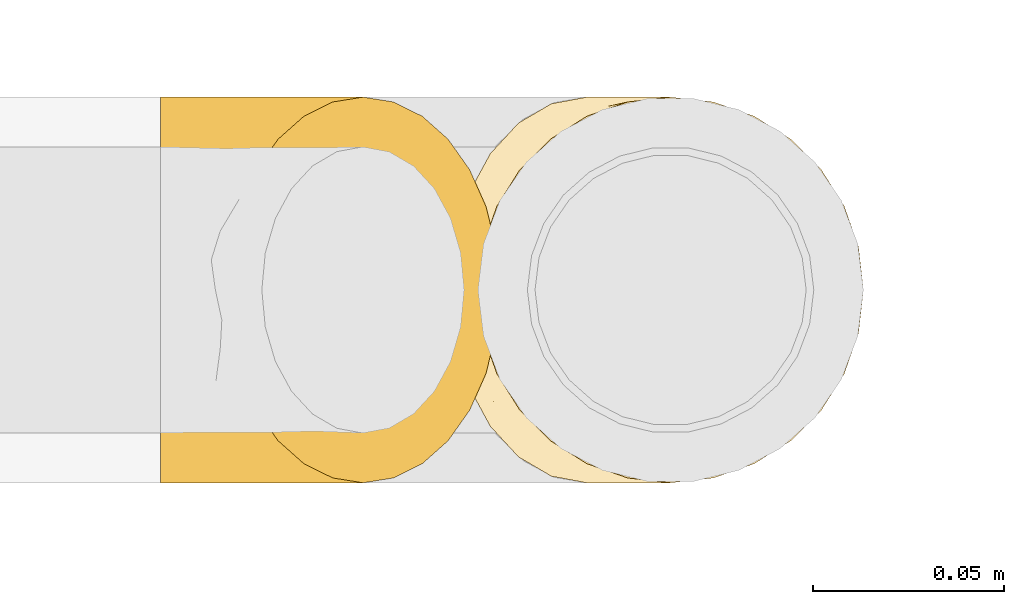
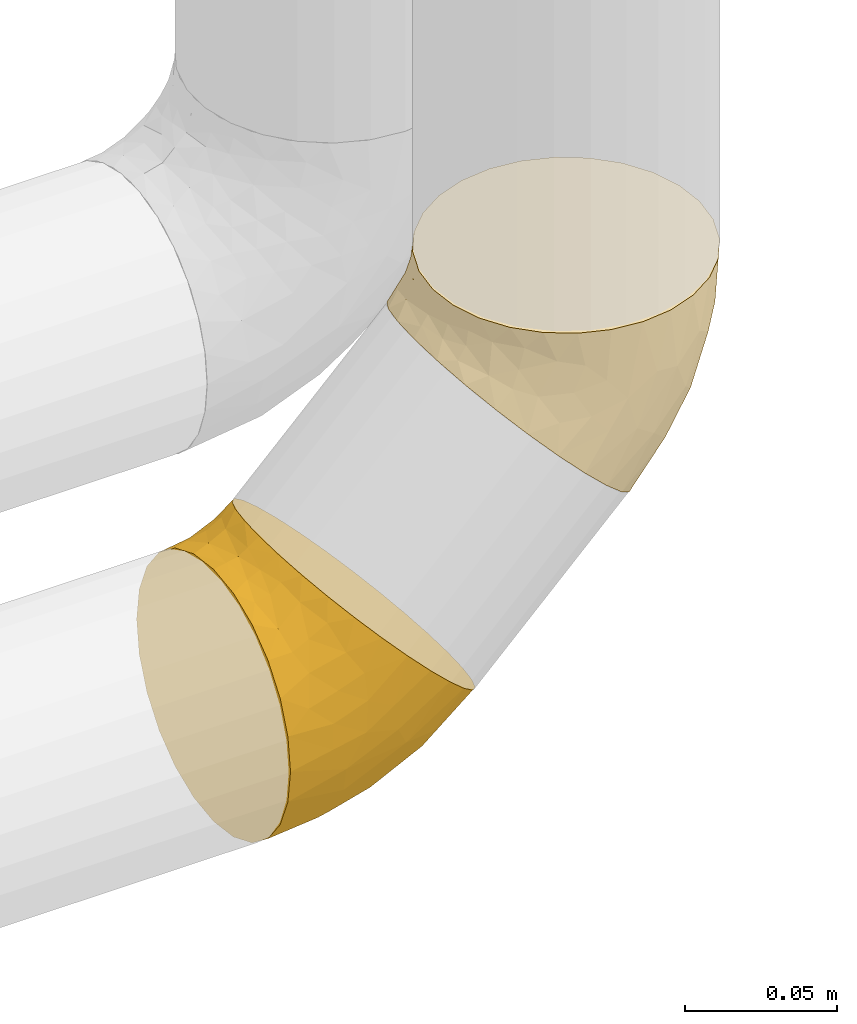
# One storey, part 35 of 156: 2 coverings.
"""IFC2X3 building model written with IfcOpenShell, lengths in millimetres."""

from ifc_helpers import new_model, entity, si_unit, converted_unit, derived_unit, direction, frame, origin_with_axes, place, context, subcontext, project, spatial, open_shell, surface_model, source, transform, mapped, element, save


model = new_model("IFC2X3")

# Units and contexts
model_context = context("Model", 3, precision=0.01, world=frame((0.0, 4.29681676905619e-09, 0.0)), true_north=direction((4.01073788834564e-13, 1.0)))
plan_context = context("Plan", 3, precision=0.01, world=frame((0.0, 4.29681676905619e-09, 0.0)), true_north=direction((4.01073788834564e-13, 1.0)))
body_context = subcontext(model_context, "Body", "Model", "MODEL_VIEW")
ifc_project = project(units=[converted_unit("PLANEANGLEUNIT", "DEGREE", entity("IfcPositiveLengthMeasure", 0.0174532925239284), si_unit("PLANEANGLEUNIT", "RADIAN"), dimensions=[0, 0, 0, 0, 0, 0, 0]), si_unit("AREAUNIT", "SQUARE_METRE"), si_unit("LENGTHUNIT", "METRE", prefix="MILLI"), si_unit("MASSUNIT", "GRAM", prefix="KILO"), si_unit("POWERUNIT", "WATT"), si_unit("PRESSUREUNIT", "PASCAL", prefix="KILO"), si_unit("FORCEUNIT", "NEWTON", prefix="KILO"), si_unit("ELECTRICVOLTAGEUNIT", "VOLT"), si_unit("ELECTRICCURRENTUNIT", "AMPERE"), si_unit("THERMODYNAMICTEMPERATUREUNIT", "DEGREE_CELSIUS"), si_unit("TIMEUNIT", "SECOND"), si_unit("VOLUMEUNIT", "CUBIC_METRE"), derived_unit("LINEARVELOCITYUNIT", [(si_unit("LENGTHUNIT", "METRE"), 1), (si_unit("TIMEUNIT", "SECOND"), -1)]), derived_unit("VOLUMETRICFLOWRATEUNIT", [(si_unit("VOLUMEUNIT", "CUBIC_METRE"), 1), (si_unit("TIMEUNIT", "SECOND"), -1)]), derived_unit("THERMALTRANSMITTANCEUNIT", [(si_unit("POWERUNIT", "WATT"), 1), (si_unit("THERMODYNAMICTEMPERATUREUNIT", "KELVIN"), -1), (si_unit("AREAUNIT", "SQUARE_METRE"), -1)]), derived_unit("SOUNDPRESSUREUNIT", [(si_unit("PRESSUREUNIT", "PASCAL"), 1)])], contexts=[model_context, plan_context])

# Site, building, storey
site_placement = place(None, frame((0.0, -4.29681676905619e-09, 0.0), z_axis=(0.0, 0.0, 1.0), x_axis=(1.0, 0.0, 0.0)))
site = spatial("IfcSite", under=ifc_project, at=site_placement, CompositionType="ELEMENT")
building_placement = place(site_placement, frame((0.0, 4.29681676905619e-09, 0.0), z_axis=(0.0, 0.0, 1.0), x_axis=(1.0, 0.0, 0.0)))
building = spatial("IfcBuilding", under=site, at=building_placement, Name="mc-building", CompositionType="ELEMENT")
storey_placement = place(building_placement, frame((0.0, 0.0, 205200.0), z_axis=(0.0, 0.0, 1.0), x_axis=(1.0, 0.0, 0.0)))
storey = spatial("IfcBuildingStorey", under=building, at=storey_placement, Name="Nivå D + 1,2 m", CompositionType="ELEMENT", Elevation=205200.0)

# Coverings
shared_shape_1 = source(origin_with_axes(), body_context, "Body", "SurfaceModel", [
    surface_model("IfcShellBasedSurfaceModel", [(6.47865, 37.45533, 45.50245), (14.02555, 29.90843, 49.23533), (-0.29194, 44.22592, 39.48835), (54.14208, -10.2081, 21.90382), (29.91694, 14.01705, 49.23258), (37.46613, 6.46785, 45.49509), (49.88947, -5.95549, 31.47888), (44.23657, -0.30259, 39.47635), (21.96699, 21.96699, 50.5), (-31.06602, 25.25, -43.73428), (-31.06602, 50.5, 0.0), (-31.06602, 48.77925, -13.07036), (-31.06602, 43.73428, -25.25), (-31.06602, 13.07036, 48.77925), (-31.06602, 35.70889, -35.70889), (-31.06602, 13.07036, -48.77925), (-31.06602, 48.77925, 13.07036), (-31.06602, 35.70889, 35.70889), (-31.06602, 43.73428, 25.25), (-31.06602, 25.25, 43.73428), (-31.06602, 0.0, 50.5), (-31.06602, 0.0, -50.5), (-31.06602, -35.70889, -35.70889), (-31.06602, -13.07036, -48.77925), (-31.06602, -25.25, -43.73428), (-31.06602, -25.25, 43.73428), (-31.06602, -43.73428, -25.25), (-31.06602, -48.77925, -13.07036), (-31.06602, -50.5, 0.0), (-31.06602, -35.70889, 35.70889), (-31.06602, -13.07036, 48.77925), (-31.06602, -43.73428, 25.25), (-31.06602, -48.77925, 13.07036), (27.91001, -19.77547, 34.76667), (1.41577, -46.22369, 0.0), (-11.40017, -47.38831, 12.38309), (-8.74293, -38.48357, 29.95251), (31.68398, -33.68619, 0.0), (7.55474, -42.53704, 13.29129), (-9.06389, -30.95235, 38.04162), (34.28789, -29.09431, 15.96636), (15.01424, -34.38084, 25.32479), (-2.36476, 5.70904, 50.5), (-9.36764, -7.03445, 49.52895), (10.2572, 2.07109, 49.72335), (-8.37178, -17.70659, 46.1768), (9.50066, -20.74611, 41.35329), (14.85338, -6.42265, 46.9978), (-9.29892, -44.09145, 20.69599), (8.90841, -30.40154, 33.56936), (56.78162, -12.84764, 11.23089), (36.21763, -22.18027, 26.15461), (57.67589, -13.7419, 0.0), (27.84037, -9.29064, 42.13676), (-20.79304, 48.58309, 19.32551), (-26.44918, 47.1374, 19.07845), (-23.61531, 41.83953, 29.46524), (-1.17488, 17.41452, 49.47585), (-14.06989, 12.68578, 49.4155), (-21.92445, 19.8307, 46.75749), (-10.88746, 23.11094, 46.65592), (-12.8457, 56.77968, 11.24292), (-13.7419, 57.67589, 0.0), (-18.20524, 54.69358, 0.0), (8.30371, 12.83748, 50.5), (-24.3338, 50.31714, 10.40952), (-19.30689, 52.34596, 10.11883), (-22.20424, 36.19202, 36.21736), (-18.99815, 30.03676, 41.72657), (-15.7369, 38.81514, 35.7157), (-8.57232, 42.77641, 35.7157), (-5.52639, 34.19353, 42.76423), (-13.96266, 47.66429, 26.87553), (-1.08153, 26.97177, 47.03628), (-5.947, 49.88099, 31.49394), (-16.2501, 51.28088, 18.38671), (-21.69027, 52.36495, 0.0), (-25.80115, 51.54725, 0.0), (-10.2029, 54.13688, 21.91909), (-14.94908, 3.20586, 50.5), (-3.53914, 35.52551, -42.7546), (-10.74577, 41.37941, -35.70208), (-0.30259, 44.23657, -39.47635), (6.46785, 37.46613, -45.49509), (14.01705, 29.91694, -49.23258), (-0.90387, 25.09239, -47.6637), (-12.62734, 48.55836, -26.86021), (-5.95549, 49.88947, -31.47888), (-26.37815, 51.43248, 0.0), (-23.87524, 48.92946, -15.82645), (-16.71539, 2.85452, -50.5), (-18.51789, 45.30675, -26.86021), (-19.58101, 37.43174, -35.70238), (-24.61924, 42.24315, -28.60873), (-15.34005, 17.97223, -47.95027), (-22.11394, 29.49513, -41.60502), (-12.84764, 56.78162, -11.23089), (-16.92844, 51.60902, -16.67216), (-10.2081, 54.14208, -21.90382), (-2.36476, 5.70904, -50.5), (-12.33365, 30.67097, -42.7546), (8.30371, 12.83748, -50.5), (21.96699, 21.96699, -50.5), (-9.39093, -7.02944, -49.5311), (14.84809, -6.40997, -47.00316), (-8.36548, -17.69129, -46.18271), (27.90408, -19.76379, -34.78041), (36.21251, -22.17262, -26.1698), (15.00964, -34.37336, -25.33976), (44.22592, -0.29194, -39.48835), (49.88099, -5.947, -31.49394), (34.28306, -29.09205, -15.9798), (54.13688, -10.2029, -21.91909), (-11.41141, -47.38686, -12.39583), (10.21933, 2.05233, -49.72376), (7.53272, -42.54113, -13.30224), (-9.05791, -30.94797, -38.0443), (-8.75334, -38.48533, -29.95289), (-9.30865, -44.09015, -20.70274), (37.45533, 6.47865, -45.50245), (29.90843, 14.02555, -49.23533), (9.49658, -20.73201, -41.3635), (27.83229, -9.278, -42.14666), (8.91048, -30.40337, -33.56661), (56.77968, -12.8457, -11.24292)], [open_shell([[[0, 1, 2]], [[3, 4, 5]], [[6, 3, 5]], [[5, 7, 6]], [[4, 1, 8]], [[9, 10, 11]], [[9, 11, 12]], [[10, 9, 13]], [[9, 12, 14]], [[13, 9, 15]], [[16, 17, 18]], [[17, 16, 13]], [[17, 13, 19]], [[16, 10, 13]], [[15, 20, 13]], [[15, 21, 20]], [[22, 21, 23]], [[22, 23, 24]], [[25, 22, 26]], [[22, 25, 20]], [[27, 28, 26]], [[25, 28, 29]], [[30, 20, 25]], [[31, 28, 32]], [[28, 31, 29]], [[26, 28, 25]], [[20, 21, 22]], [[7, 33, 6]], [[28, 34, 35]], [[31, 36, 29]], [[34, 37, 38]], [[39, 25, 29]], [[40, 41, 38]], [[42, 43, 44]], [[39, 45, 25]], [[43, 20, 30]], [[45, 46, 47]], [[35, 48, 32]], [[46, 39, 49]], [[36, 39, 29]], [[45, 43, 30]], [[40, 38, 37]], [[37, 50, 40]], [[3, 6, 51]], [[3, 51, 40]], [[47, 43, 45]], [[52, 50, 37]], [[53, 33, 7]], [[25, 45, 30]], [[41, 36, 48]], [[44, 8, 42]], [[5, 4, 47]], [[47, 46, 53]], [[40, 51, 41]], [[33, 51, 6]], [[5, 53, 7]], [[35, 38, 48]], [[47, 44, 43]], [[3, 40, 50]], [[20, 43, 42]], [[51, 33, 41]], [[48, 36, 31]], [[41, 33, 49]], [[49, 39, 36]], [[39, 46, 45]], [[41, 49, 36]], [[46, 49, 33]], [[47, 4, 44]], [[8, 44, 4]], [[32, 48, 31]], [[41, 48, 38]], [[47, 53, 5]], [[33, 53, 46]], [[28, 35, 32]], [[34, 38, 35]], [[54, 55, 56]], [[57, 58, 42]], [[13, 58, 59]], [[58, 57, 60]], [[61, 62, 63]], [[64, 1, 57]], [[54, 65, 55]], [[61, 63, 66]], [[67, 68, 69]], [[70, 71, 2]], [[56, 72, 54]], [[65, 54, 66]], [[71, 0, 2]], [[73, 1, 0]], [[74, 70, 2]], [[54, 75, 66]], [[67, 19, 68]], [[64, 57, 42]], [[57, 73, 60]], [[59, 60, 68]], [[65, 66, 76]], [[66, 75, 61]], [[65, 76, 77]], [[68, 71, 69]], [[63, 76, 66]], [[54, 72, 75]], [[72, 74, 78]], [[70, 72, 69]], [[60, 73, 71]], [[13, 20, 79]], [[64, 8, 1]], [[16, 77, 10]], [[58, 79, 42]], [[77, 16, 65]], [[55, 65, 16]], [[59, 58, 60]], [[13, 79, 58]], [[16, 18, 55]], [[56, 55, 18]], [[17, 56, 18]], [[56, 69, 72]], [[60, 71, 68]], [[19, 13, 59]], [[69, 56, 67]], [[19, 59, 68]], [[72, 70, 74]], [[71, 70, 69]], [[72, 78, 75]], [[61, 75, 78]], [[1, 73, 57]], [[0, 71, 73]], [[56, 17, 67]], [[19, 67, 17]], [[80, 81, 82]], [[83, 84, 85]], [[81, 86, 87]], [[11, 88, 89]], [[15, 90, 21]], [[91, 92, 93]], [[94, 9, 95]], [[63, 62, 96]], [[81, 92, 91]], [[89, 97, 91]], [[89, 91, 93]], [[90, 15, 94]], [[98, 97, 96]], [[99, 94, 85]], [[87, 86, 98]], [[87, 82, 81]], [[12, 11, 89]], [[14, 92, 95]], [[86, 97, 98]], [[91, 86, 81]], [[94, 100, 85]], [[80, 82, 83]], [[99, 85, 101]], [[85, 84, 101]], [[63, 97, 76]], [[80, 85, 100]], [[92, 81, 100]], [[89, 76, 97]], [[9, 94, 15]], [[97, 63, 96]], [[84, 102, 101]], [[94, 99, 90]], [[97, 86, 91]], [[85, 80, 83]], [[81, 80, 100]], [[95, 92, 100]], [[93, 14, 12]], [[94, 95, 100]], [[14, 95, 9]], [[14, 93, 92]], [[89, 93, 12]], [[88, 11, 10]], [[88, 76, 89]], [[103, 104, 105]], [[106, 107, 108]], [[99, 103, 21]], [[106, 109, 110]], [[111, 107, 112]], [[24, 23, 105]], [[27, 113, 28]], [[103, 99, 114]], [[111, 115, 108]], [[103, 105, 23]], [[116, 24, 105]], [[26, 117, 118]], [[21, 103, 23]], [[22, 117, 26]], [[119, 104, 120]], [[105, 121, 116]], [[104, 119, 122]], [[27, 118, 113]], [[122, 119, 109]], [[107, 106, 110]], [[123, 108, 117]], [[121, 122, 106]], [[115, 111, 37]], [[107, 110, 112]], [[124, 52, 37]], [[115, 37, 34]], [[124, 37, 111]], [[107, 111, 108]], [[105, 104, 121]], [[124, 111, 112]], [[114, 104, 103]], [[114, 102, 120]], [[118, 27, 26]], [[117, 116, 123]], [[116, 117, 22]], [[118, 108, 115]], [[24, 116, 22]], [[123, 121, 106]], [[121, 123, 116]], [[108, 123, 106]], [[102, 114, 99]], [[120, 104, 114]], [[108, 118, 117]], [[118, 115, 113]], [[106, 122, 109]], [[104, 122, 121]], [[115, 34, 113]], [[28, 113, 34]], [[62, 61, 78]], [[83, 62, 78]], [[83, 78, 2]], [[78, 74, 2]], [[3, 83, 2]], [[98, 83, 87]], [[98, 96, 62]], [[82, 87, 83]], [[98, 62, 83]], [[84, 83, 120]], [[84, 120, 102]], [[1, 3, 2]], [[1, 4, 3]], [[124, 83, 3]], [[52, 3, 50]], [[120, 109, 119]], [[83, 109, 120]], [[112, 109, 124]], [[110, 109, 112]], [[83, 124, 109]], [[52, 124, 3]]])]),
])
covering_1_placement = place(storey_placement, frame((339281.11834, 460304.21708, 4098.23676), z_axis=(0.0, -1.0, 0.0), x_axis=(1.0, 0.0, 0.0)))
element("IfcCovering", 1, at=covering_1_placement, inside=storey, Name="BI17T - Cellegummi 13 mm SPV fett", PredefinedType="INSULATION", context=body_context, shape_type="MappedRepresentation", body=[
    mapped(shared_shape_1, transform((0.0, 0.0, 0.0), scale=1.0)),
])
shared_shape_2 = source(origin_with_axes(), body_context, "Body", "SurfaceModel", [
    surface_model("IfcShellBasedSurfaceModel", [(-12.8457, 56.77968, 11.24292), (-12.84764, 56.78162, -11.23089), (-13.7419, 57.67589, 0.0), (-5.947, 49.88099, 31.49394), (-10.2029, 54.13688, 21.91909), (6.47865, 37.45533, 45.50245), (14.02555, 29.90843, 49.23533), (-0.29194, 44.22592, 39.48835), (54.14208, -10.2081, 21.90382), (29.91694, 14.01705, 49.23258), (37.46613, 6.46785, 45.49509), (56.77968, -12.8457, -11.24292), (56.78162, -12.84764, 11.23089), (57.67589, -13.7419, 0.0), (-31.06602, 25.25, -43.73428), (-31.06602, 50.5, 0.0), (-31.06602, 48.77925, -13.07036), (-31.06602, 43.73428, -25.25), (-31.06602, 13.07036, 48.77925), (-31.06602, 35.70889, -35.70889), (-31.06602, 13.07036, -48.77925), (-31.06602, 48.77925, 13.07036), (-31.06602, 35.70889, 35.70889), (-31.06602, 43.73428, 25.25), (-31.06602, 25.25, 43.73428), (-31.06602, 0.0, 50.5), (-31.06602, 0.0, -50.5), (-31.06602, -35.70889, -35.70889), (-31.06602, -13.07036, -48.77925), (-31.06602, -25.25, -43.73428), (-31.06602, -25.25, 43.73428), (-31.06602, -43.73428, -25.25), (-31.06602, -48.77925, -13.07036), (-31.06602, -50.5, 0.0), (-31.06602, -35.70889, 35.70889), (-31.06602, -13.07036, 48.77925), (-31.06602, -43.73428, 25.25), (-31.06602, -48.77925, 13.07036), (44.23657, -0.30259, 39.47635), (27.91001, -19.77547, 34.76667), (49.88947, -5.95549, 31.47888), (1.41577, -46.22369, 0.0), (-11.40017, -47.38831, 12.38309), (-8.74293, -38.48357, 29.95251), (31.68398, -33.68619, 0.0), (7.55474, -42.53704, 13.29129), (-9.06389, -30.95235, 38.04162), (34.28789, -29.09431, 15.96636), (15.01424, -34.38084, 25.32479), (-2.36476, 5.70904, 50.5), (-9.36764, -7.03445, 49.52895), (10.2572, 2.07109, 49.72335), (-8.37178, -17.70659, 46.1768), (9.50066, -20.74611, 41.35329), (14.85338, -6.42265, 46.9978), (-9.29892, -44.09145, 20.69599), (8.90841, -30.40154, 33.56936), (36.21763, -22.18027, 26.15461), (27.84037, -9.29064, 42.13676), (21.96699, 21.96699, 50.5), (-20.79304, 48.58309, 19.32551), (-26.44918, 47.1374, 19.07845), (-23.61531, 41.83953, 29.46524), (-1.17488, 17.41452, 49.47585), (-14.06989, 12.68578, 49.4155), (-21.92445, 19.8307, 46.75749), (-10.88746, 23.11094, 46.65592), (-18.20524, 54.69358, 0.0), (8.30371, 12.83748, 50.5), (-24.3338, 50.31714, 10.40952), (-19.30689, 52.34596, 10.11883), (-22.20424, 36.19202, 36.21736), (-18.99815, 30.03676, 41.72657), (-15.7369, 38.81514, 35.7157), (-8.57232, 42.77641, 35.7157), (-5.52639, 34.19353, 42.76423), (-13.96266, 47.66429, 26.87553), (-1.08153, 26.97177, 47.03628), (-16.2501, 51.28088, 18.38671), (-21.69027, 52.36495, 0.0), (-25.80115, 51.54725, 0.0), (-14.94908, 3.20586, 50.5), (-3.53914, 35.52551, -42.7546), (-10.74577, 41.37941, -35.70208), (-0.30259, 44.23657, -39.47635), (6.46785, 37.46613, -45.49509), (14.01705, 29.91694, -49.23258), (-0.90387, 25.09239, -47.6637), (-12.62734, 48.55836, -26.86021), (-5.95549, 49.88947, -31.47888), (-26.37815, 51.43248, 0.0), (-23.87524, 48.92946, -15.82645), (-16.71539, 2.85452, -50.5), (-18.51789, 45.30675, -26.86021), (-19.58101, 37.43174, -35.70238), (-24.61924, 42.24315, -28.60873), (-15.34005, 17.97223, -47.95027), (-22.11394, 29.49513, -41.60502), (-16.92844, 51.60902, -16.67216), (-10.2081, 54.14208, -21.90382), (-2.36476, 5.70904, -50.5), (-12.33365, 30.67097, -42.7546), (8.30371, 12.83748, -50.5), (21.96699, 21.96699, -50.5), (-9.39093, -7.02944, -49.5311), (14.84809, -6.40997, -47.00316), (-8.36548, -17.69129, -46.18271), (27.90408, -19.76379, -34.78041), (36.21251, -22.17262, -26.1698), (15.00964, -34.37336, -25.33976), (44.22592, -0.29194, -39.48835), (49.88099, -5.947, -31.49394), (34.28306, -29.09205, -15.9798), (54.13688, -10.2029, -21.91909), (-11.41141, -47.38686, -12.39583), (10.21933, 2.05233, -49.72376), (7.53272, -42.54113, -13.30224), (-9.05791, -30.94797, -38.0443), (-8.75334, -38.48533, -29.95289), (-9.30865, -44.09015, -20.70274), (37.45533, 6.47865, -45.50245), (29.90843, 14.02555, -49.23533), (9.49658, -20.73201, -41.3635), (27.83229, -9.278, -42.14666), (8.91048, -30.40337, -33.56661)], [open_shell([[[0, 1, 2]], [[3, 0, 4]], [[5, 6, 7]], [[8, 9, 10]], [[11, 8, 12]], [[12, 13, 11]], [[14, 15, 16]], [[14, 16, 17]], [[15, 14, 18]], [[14, 17, 19]], [[18, 14, 20]], [[21, 22, 23]], [[22, 21, 18]], [[22, 18, 24]], [[21, 15, 18]], [[20, 25, 18]], [[20, 26, 25]], [[27, 26, 28]], [[27, 28, 29]], [[30, 27, 31]], [[27, 30, 25]], [[32, 33, 31]], [[30, 33, 34]], [[35, 25, 30]], [[36, 33, 37]], [[33, 36, 34]], [[31, 33, 30]], [[25, 26, 27]], [[38, 39, 40]], [[33, 41, 42]], [[36, 43, 34]], [[41, 44, 45]], [[46, 30, 34]], [[47, 48, 45]], [[49, 50, 51]], [[46, 52, 30]], [[50, 25, 35]], [[52, 53, 54]], [[42, 55, 37]], [[53, 46, 56]], [[43, 46, 34]], [[52, 50, 35]], [[47, 45, 44]], [[44, 12, 47]], [[8, 40, 57]], [[8, 57, 47]], [[54, 50, 52]], [[13, 12, 44]], [[58, 39, 38]], [[30, 52, 35]], [[48, 43, 55]], [[51, 59, 49]], [[10, 9, 54]], [[54, 53, 58]], [[47, 57, 48]], [[39, 57, 40]], [[10, 58, 38]], [[42, 45, 55]], [[54, 51, 50]], [[8, 47, 12]], [[25, 50, 49]], [[57, 39, 48]], [[55, 43, 36]], [[48, 39, 56]], [[56, 46, 43]], [[46, 53, 52]], [[48, 56, 43]], [[53, 56, 39]], [[54, 9, 51]], [[59, 51, 9]], [[37, 55, 36]], [[48, 55, 45]], [[54, 58, 10]], [[39, 58, 53]], [[33, 42, 37]], [[41, 45, 42]], [[60, 61, 62]], [[63, 64, 49]], [[18, 64, 65]], [[64, 63, 66]], [[0, 2, 67]], [[68, 6, 63]], [[60, 69, 61]], [[0, 67, 70]], [[71, 72, 73]], [[74, 75, 7]], [[62, 76, 60]], [[69, 60, 70]], [[75, 5, 7]], [[77, 6, 5]], [[3, 74, 7]], [[60, 78, 70]], [[71, 24, 72]], [[68, 63, 49]], [[63, 77, 66]], [[65, 66, 72]], [[69, 70, 79]], [[70, 78, 0]], [[69, 79, 80]], [[72, 75, 73]], [[67, 79, 70]], [[60, 76, 78]], [[76, 3, 4]], [[74, 76, 73]], [[66, 77, 75]], [[18, 25, 81]], [[68, 59, 6]], [[21, 80, 15]], [[64, 81, 49]], [[80, 21, 69]], [[61, 69, 21]], [[65, 64, 66]], [[18, 81, 64]], [[21, 23, 61]], [[62, 61, 23]], [[22, 62, 23]], [[62, 73, 76]], [[66, 75, 72]], [[24, 18, 65]], [[73, 62, 71]], [[24, 65, 72]], [[76, 74, 3]], [[75, 74, 73]], [[76, 4, 78]], [[0, 78, 4]], [[6, 77, 63]], [[5, 75, 77]], [[62, 22, 71]], [[24, 71, 22]], [[82, 83, 84]], [[85, 86, 87]], [[83, 88, 89]], [[16, 90, 91]], [[20, 92, 26]], [[93, 94, 95]], [[96, 14, 97]], [[67, 2, 1]], [[83, 94, 93]], [[91, 98, 93]], [[91, 93, 95]], [[92, 20, 96]], [[99, 98, 1]], [[100, 96, 87]], [[89, 88, 99]], [[89, 84, 83]], [[17, 16, 91]], [[19, 94, 97]], [[88, 98, 99]], [[93, 88, 83]], [[96, 101, 87]], [[82, 84, 85]], [[100, 87, 102]], [[87, 86, 102]], [[67, 98, 79]], [[82, 87, 101]], [[94, 83, 101]], [[91, 79, 98]], [[14, 96, 20]], [[98, 67, 1]], [[86, 103, 102]], [[96, 100, 92]], [[98, 88, 93]], [[87, 82, 85]], [[83, 82, 101]], [[97, 94, 101]], [[95, 19, 17]], [[96, 97, 101]], [[19, 97, 14]], [[19, 95, 94]], [[91, 95, 17]], [[90, 16, 15]], [[90, 79, 91]], [[104, 105, 106]], [[107, 108, 109]], [[100, 104, 26]], [[107, 110, 111]], [[112, 108, 113]], [[29, 28, 106]], [[32, 114, 33]], [[104, 100, 115]], [[112, 116, 109]], [[104, 106, 28]], [[117, 29, 106]], [[31, 118, 119]], [[26, 104, 28]], [[27, 118, 31]], [[120, 105, 121]], [[106, 122, 117]], [[105, 120, 123]], [[32, 119, 114]], [[123, 120, 110]], [[108, 107, 111]], [[124, 109, 118]], [[122, 123, 107]], [[116, 112, 44]], [[108, 111, 113]], [[11, 13, 44]], [[116, 44, 41]], [[11, 44, 112]], [[108, 112, 109]], [[106, 105, 122]], [[11, 112, 113]], [[115, 105, 104]], [[115, 103, 121]], [[119, 32, 31]], [[118, 117, 124]], [[117, 118, 27]], [[119, 109, 116]], [[29, 117, 27]], [[124, 122, 107]], [[122, 124, 117]], [[109, 124, 107]], [[103, 115, 100]], [[121, 105, 115]], [[109, 119, 118]], [[119, 116, 114]], [[107, 123, 110]], [[105, 123, 122]], [[116, 41, 114]], [[33, 114, 41]], [[111, 110, 113]], [[121, 3, 7]], [[0, 3, 1]], [[121, 103, 3]], [[99, 84, 89]], [[99, 1, 3]], [[84, 99, 85]], [[103, 86, 85]], [[99, 103, 85]], [[3, 103, 99]], [[9, 7, 6]], [[120, 7, 9]], [[8, 10, 40]], [[9, 8, 11]], [[40, 10, 38]], [[120, 113, 110]], [[121, 7, 120]], [[113, 120, 11]], [[9, 11, 120]], [[6, 59, 9]]])]),
])
covering_2_placement = place(storey_placement, frame((339383.61788, 460304.21708, 4200.73629999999), z_axis=(0.0, -1.0, 0.0), x_axis=(0.707106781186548, 0.0, 0.707106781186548)))
element("IfcCovering", 2, at=covering_2_placement, inside=storey, Name="BI17T - Cellegummi 13 mm SPV fett", PredefinedType="INSULATION", context=body_context, shape_type="MappedRepresentation", body=[
    mapped(shared_shape_2, transform((0.0, 0.0, 0.0), scale=1.0)),
])

save(model, "model.ifc")
